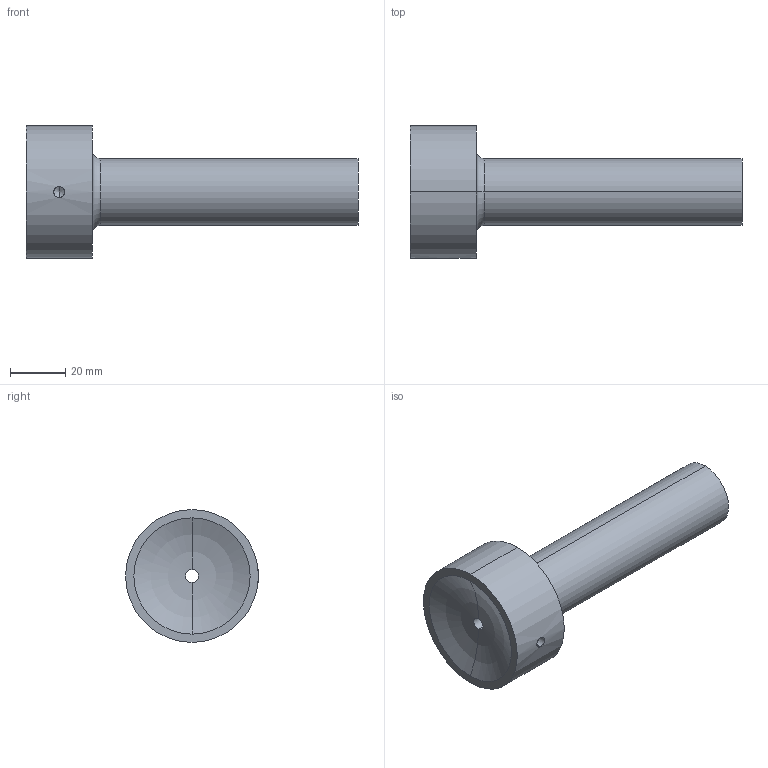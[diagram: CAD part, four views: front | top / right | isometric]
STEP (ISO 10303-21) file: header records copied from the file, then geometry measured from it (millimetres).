
FILE_DESCRIPTION (( 'STEP AP214' ), '1' );
FILE_NAME ('BR51 24x96x4,5x40.STEP', '2019-06-05T15:31:43', ( 'August' ), ( '' ), 'SwSTEP 2.0', 'SolidWorks 2018', '' );
FILE_SCHEMA (( 'AUTOMOTIVE_DESIGN' ));
Length unit declared in the file: millimetre
Products named in the file (1): BR51 24x96x4,5x40
Bounding box: 120 x 48 x 48 mm (x, y, z)
Volume: 78615.9 mm3; surface area: 17096.4 mm2
Topology: 1 solids, 1 shells, 17 faces, 36 edges, 21 vertices
Faces by surface type: cylinder 6, cone 4, torus 4, plane 3
Entity records: 538 total; most frequent: CARTESIAN_POINT 127, DIRECTION 90, ORIENTED_EDGE 68, AXIS2_PLACEMENT_3D 40, EDGE_CURVE 34, CIRCLE 22, EDGE_LOOP 21, VERTEX_POINT 21
